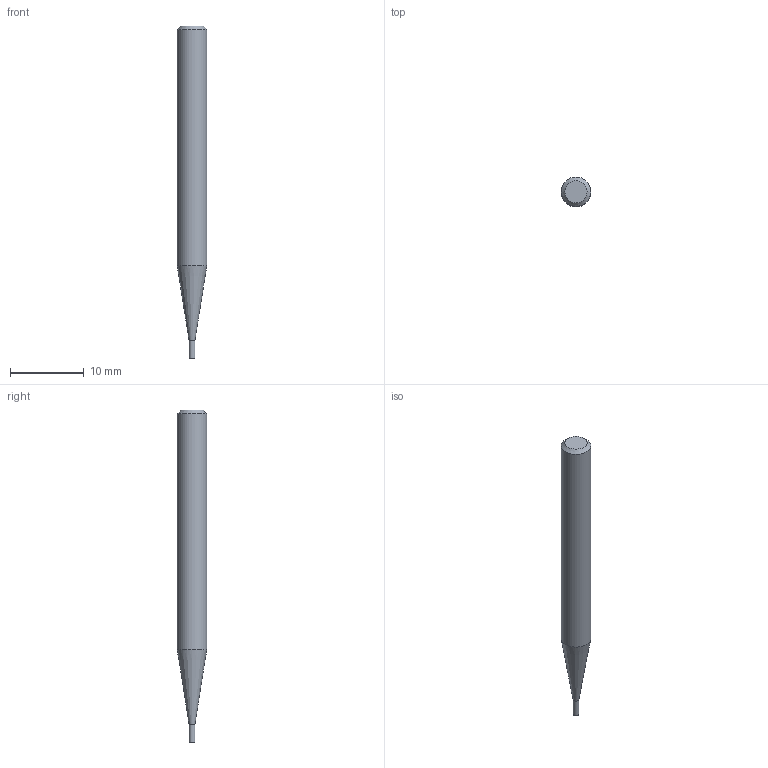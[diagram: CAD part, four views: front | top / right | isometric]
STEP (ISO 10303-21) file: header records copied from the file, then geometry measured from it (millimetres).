
FILE_DESCRIPTION((''),'2;1');
FILE_NAME('C:\Users\nsx150\Desktop\RSE230_20210427\01-00644-00800 RSE230 D0_8X2_4.step','2021-05-07T14:53:01',(''),(''),'STEP Write','Mastercam 2021 ... CNC Software, Inc.','');
FILE_SCHEMA(('AUTOMOTIVE_DESIGN'));
Length unit declared in the file: millimetre
Products named in the file (1): None
Bounding box: 4 x 4 x 45 mm (x, y, z)
Volume: 460.6 mm3; surface area: 501.6 mm2
Topology: 2 solids, 2 shells, 8 faces, 10 edges, 6 vertices
Faces by surface type: plane 4, cylinder 2, cone 2
Full cylindrical faces by diameter (mm): 0.8 x1, 4 x1
Entity records: 190 total; most frequent: DIRECTION 32, CARTESIAN_POINT 22, AXIS2_PLACEMENT_3D 16, ORIENTED_EDGE 12, EDGE_LOOP 12, STYLED_ITEM 11, ADVANCED_FACE 8, VERTEX_POINT 6
